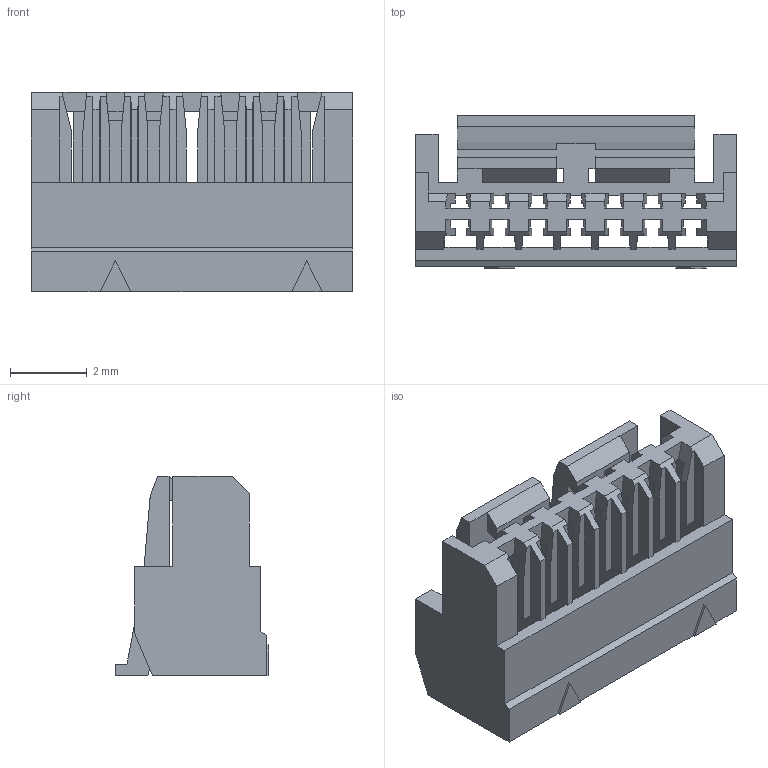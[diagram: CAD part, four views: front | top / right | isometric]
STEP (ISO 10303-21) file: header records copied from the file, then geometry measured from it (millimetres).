
FILE_DESCRIPTION (( 'STEP AP203' ), '1' );
FILE_NAME ('HC-GHC-7Y-05 (1.00 等齬 湍諶 謂釱-HCTL).STEP', '2025-11-18T03:29:29', ( '' ), ( '' ), 'SwSTEP 2.0', 'SolidWorks 2025', '' );
FILE_SCHEMA (( 'CONFIG_CONTROL_DESIGN' ));
Length unit declared in the file: millimetre
Products named in the file (1): HC-GHC-7Y-05 (1.00 单排 带扣 孔座-HCTL)
Bounding box: 8.4 x 4 x 5.2 mm (x, y, z)
Volume: 66.2 mm3; surface area: 371.9 mm2
Topology: 1 solids, 1 shells, 280 faces, 871 edges, 568 vertices
Faces by surface type: plane 280
Entity records: 9572 total; most frequent: ORIENTED_EDGE 1742, CARTESIAN_POINT 1720, DIRECTION 1433, LINE 871, EDGE_CURVE 871, VECTOR 871, VERTEX_POINT 568, EDGE_LOOP 287
